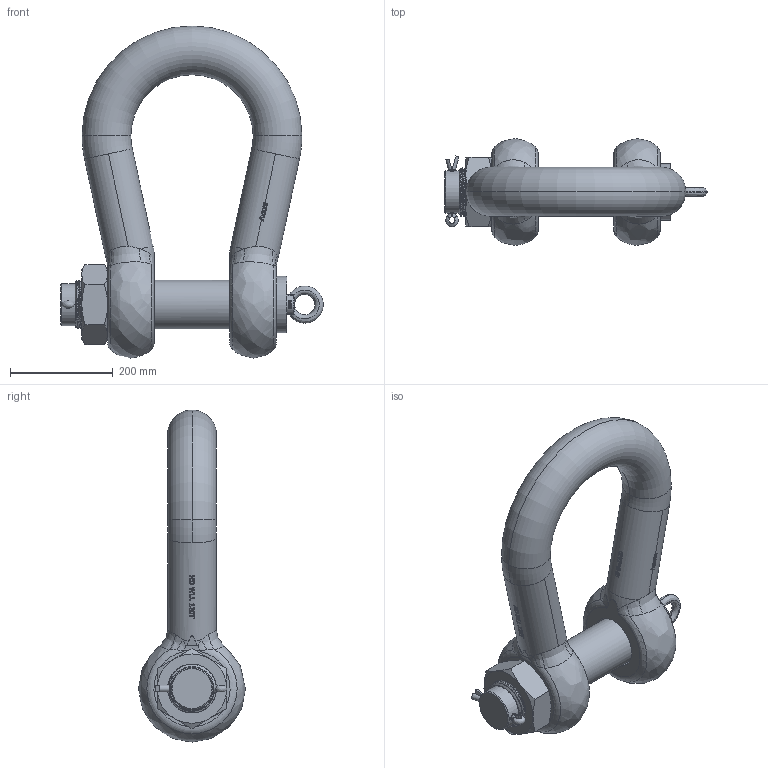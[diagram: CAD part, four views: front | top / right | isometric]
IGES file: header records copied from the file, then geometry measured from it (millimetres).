
Global section: file name: No Iges File Name specified; native system: Autodesk Inventor 2009; preprocessor: AutoDesk Inventor Iges Exporter R2009; author: Jack; date: 20091212.143358; units: millimetre
Bounding box: 511 x 208 x 646.5 mm (x, y, z)
Volume: 14606826.3 mm3; surface area: 774872.2 mm2
Topology: 5 solids, 5 shells, 813 faces, 2179 edges, 1429 vertices
Faces by surface type: plane 410, bspline 225, cylinder 102, revolution 36, torus 20, cone 20
Full cylindrical faces by diameter (mm): 95 x11
